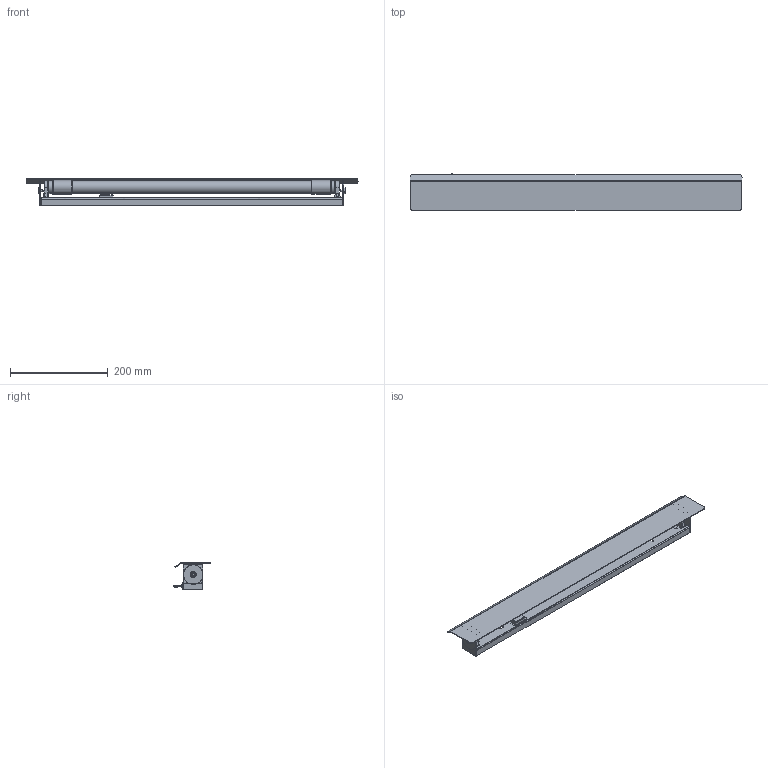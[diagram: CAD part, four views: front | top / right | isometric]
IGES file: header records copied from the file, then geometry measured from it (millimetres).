
Start section: SolidWorks IGES file using analytic representation for surfaces
Global section: file name: E:\3D lampy\Wing\Wing Led_9248,9250,9295.IGS; native system: SolidWorks 2017; preprocessor: SolidWorks 2017; author: Asia; date: 180329.151418; units: millimetre
Bounding box: 680 x 74.94 x 54.3 mm (x, y, z)
Surface area: 310142.7 mm2 (no closed solid volume)
Topology: 0 solids, 0 shells, 569 faces, 6370 edges, 6360 vertices
Faces by surface type: bspline 374, revolution 195
